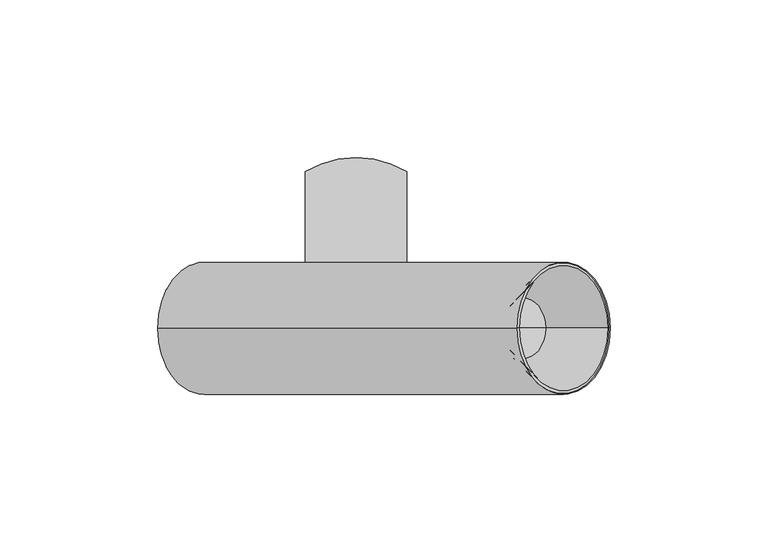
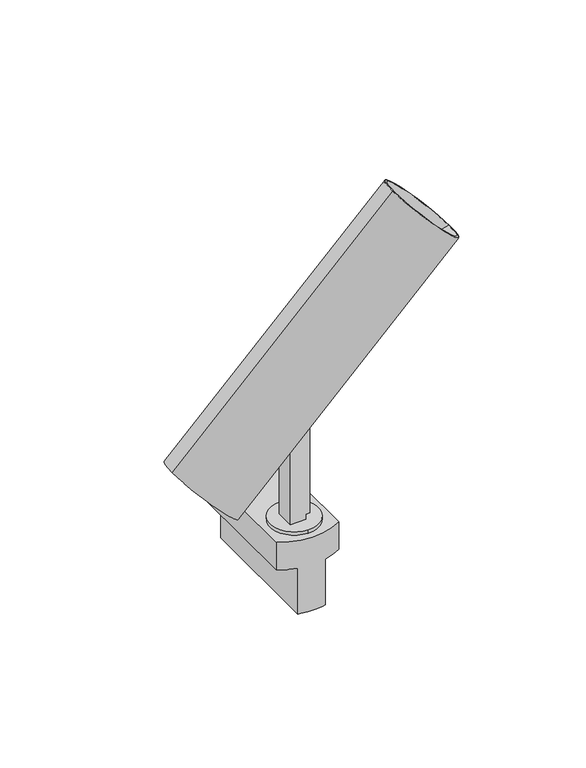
"""IFC4 building model written with IfcOpenShell, lengths in millimetres: light fixture geometry, PIPES T XS : 630lm 7,8W 840 38°."""

from ifc_helpers import new_model, si_unit, point, frame, frame_2d, origin, origin_2d, place, context, project, spatial, polyline, circle_curve, trimmed, segment, composite_curve, outline, extrude, source, transform, mapped, element, save
from ifc_brep_helpers import plane_surface, cylinder_surface, revolved_surface, advanced_brep


def light_fixture_8f9b67cb(model_context):
    return source(origin(), model_context, "Body", "SolidModel", [
        extrude(outline(composite_curve([segment(polyline([(16.8, -5.0), (16.8, 3.0), (19.8, 3.0), (19.8, 5.0), (77.8486083, 5.0), (77.8486083, -3.0)]), True, "CONTINUOUS"), segment(trimmed(circle_curve(frame_2d((72.2216603, -3.0)), 5.626948), [point((77.8486083, -3.0))], [point((72.2216603, -8.626948))], False, "CARTESIAN"), True, "CONTINUOUS"), segment(polyline([(72.2216603, -8.626948), (66.4039036, -8.626948)]), True, "CONTINUOUS"), segment(trimmed(circle_curve(frame_2d((74.2485419, -2.7611322)), 9.7952104), [point((66.4039036, -8.626948))], [point((64.7126299, -5.0))], False, "CARTESIAN"), True, "CONTINUOUS"), segment(polyline([(64.7126299, -5.0), (16.8, -5.0)]), True, "CONTINUOUS")], self_intersect=False)), frame((0.0, -5.0, 0.0), z_axis=(0.0, 1.0, 0.0), x_axis=(0.0, 0.0, 1.0)), (0.0, 0.0, 1.0), 10.0),
        extrude(outline(composite_curve([segment(trimmed(circle_curve(origin_2d(), 12.5), [point((0.0, 12.5))], [point((0.0, -12.5))], False, "CARTESIAN"), True, "CONTINUOUS"), segment(trimmed(circle_curve(origin_2d(), 12.5), [point((0.0, -12.5))], [point((0.0, 12.5))], False, "CARTESIAN"), True, "CONTINUOUS")], self_intersect=False)), frame((0.0, 0.0, 15.0), z_axis=(0.0, 0.0, 1.0), x_axis=(1.0, 0.0, 0.0)), (0.0, 0.0, 1.0), 1.8),
        advanced_brep(
        [(-7.1153658, -15.2862846, -25.0), (-7.1153658, 53.3498174, -25.0), (7.1153658, 53.3498174, -25.0), (7.1153658, -15.2862846, -25.0), (-16.1153658, 49.7317664, 15.0), (-16.1153658, -11.6682336, 15.0), (16.1153658, -11.6682336, 15.0), (16.1153658, 49.7317664, 15.0), (-16.1153658, 49.7317664, 0.0), (-16.1153658, -11.6682336, 0.0), (-7.1153658, -15.2862846, 0.0), (7.1153658, -15.2862846, 0.0), (16.1153658, -11.6682336, 0.0), (16.1153658, 49.7317664, 0.0), (7.1153658, 53.3498174, 0.0), (-7.1153658, 53.3498174, 0.0)],
        [
            (0, 1),
            (1, 2, circle_curve(frame((0.0, 22.6472542, -25.0), z_axis=(0.0, 0.0, -1.0), x_axis=(1.0, 0.0, 0.0)), 31.5162786)),
            (2, 3),
            (3, 0, circle_curve(frame((0.0, 15.4162786, -25.0), z_axis=(0.0, 0.0, -1.0), x_axis=(1.0, 0.0, 0.0)), 31.5162786)),
            (4, 5),
            (5, 6, circle_curve(frame((0.0, 15.4162786, 15.0), z_axis=(0.0, 0.0, 1.0), x_axis=(1.0, 0.0, 0.0)), 31.5162786)),
            (6, 7),
            (7, 4, circle_curve(frame((0.0, 22.6472542, 15.0), z_axis=(0.0, 0.0, 1.0), x_axis=(1.0, 0.0, 0.0)), 31.5162786)),
            (4, 8),
            (8, 9),
            (9, 5),
            (9, 10, circle_curve(frame((0.0, 15.4162786, 0.0), z_axis=(0.0, 0.0, 1.0), x_axis=(1.0, 0.0, 0.0)), 31.5162786)),
            (10, 0),
            (3, 11),
            (11, 12, circle_curve(frame((0.0, 15.4162786, 0.0), z_axis=(0.0, 0.0, 1.0), x_axis=(1.0, 0.0, 0.0)), 31.5162786)),
            (12, 6),
            (12, 13),
            (13, 7),
            (13, 14, circle_curve(frame((0.0, 22.6472542, 0.0), z_axis=(0.0, 0.0, 1.0), x_axis=(1.0, 0.0, 0.0)), 31.5162786)),
            (14, 2),
            (1, 15),
            (15, 8, circle_curve(frame((0.0, 22.6472542, 0.0), z_axis=(0.0, 0.0, 1.0), x_axis=(1.0, 0.0, 0.0)), 31.5162786)),
            (15, 10),
            (11, 14),
        ],
        [
            plane_surface(frame((-16.1153658, -11.6883244, -25.0), z_axis=(0.0, 0.0, -1.0), x_axis=(0.0, 1.0, 0.0))),
            plane_surface(frame((-16.1153658, -11.6883244, 15.0), z_axis=(0.0, 0.0, 1.0), x_axis=(0.0, -1.0, 0.0))),
            plane_surface(frame((-16.1153658, 49.7317664, 15.0), z_axis=(-1.0, 0.0, 0.0), x_axis=(0.0, 0.0, -1.0))),
            cylinder_surface(frame((0.0, 15.4162786, -25.0), z_axis=(0.0, 0.0, 1.0), x_axis=(1.0, 0.0, 0.0)), 31.5162786),
            plane_surface(frame((16.1153658, -11.6682336, 15.0), z_axis=(1.0, 0.0, 0.0), x_axis=(0.0, 0.0, -1.0))),
            cylinder_surface(frame((0.0, 22.6472542, -25.0), z_axis=(0.0, 0.0, 1.0), x_axis=(1.0, 0.0, 0.0)), 31.5162786),
            plane_surface(frame((-7.1153658, 58.6979838, 0.0), z_axis=(0.0, 0.0, -1.0), x_axis=(-1.0, 0.0, 0.0))),
            plane_surface(frame((-7.1153658, -21.3020162, 0.0), z_axis=(-1.0, 0.0, 0.0), x_axis=(0.0, 0.0, -1.0))),
            plane_surface(frame((7.1153658, -11.6883244, 0.0), z_axis=(0.0, 0.0, -1.0), x_axis=(0.0, -1.0, 0.0))),
            plane_surface(frame((7.1153658, 58.6979838, 0.0), z_axis=(1.0, 0.0, 0.0), x_axis=(0.0, 0.0, -1.0))),
        ],
        [
            (0, [[1, 2, 3, 4]]),
            (1, [[5, 6, 7, 8]]),
            (2, [[-5, 9, 10, 11]]),
            (3, [[-6, -11, 12, 13, -4, 14, 15, 16]]),
            (4, [[-7, -16, 17, 18]]),
            (5, [[-8, -18, 19, 20, -2, 21, 22, -9]]),
            (6, [[23, -12, -10, -22]]),
            (7, [[-23, -21, -1, -13]]),
            (8, [[24, -19, -17, -15]]),
            (9, [[-24, -14, -3, -20]]),
        ],
    ),
        advanced_brep(
        [(0.0, 5.0, 80.0710678), (-36.0624458, 5.0, 44.008622), (-30.879139, 5.0, 38.8253152), (-35.1217797, 5.0, 34.5826745), (-33.661056, 5.0, 33.1219508), (6.6440305, 5.0, 73.4270373), (0.0, -5.0, 80.0710678), (6.6440305, -5.0, 73.4270373), (-33.661056, -5.0, 33.1219508), (-35.1217797, -5.0, 34.5826745), (-30.879139, -5.0, 38.8253152), (-36.0624458, -5.0, 44.008622), (-36.0624458, 0.0, 44.008622), (7.0710678, 0.0, 73.0), (80.6101731, 0.0, 146.5391052), (50.9116882, 0.0, 176.2375901), (-62.9325035, 0.0, 62.3933983), (-61.51829, 0.0, 60.9791847), (-57.2756493, 0.0, 65.2218254), (-43.8406204, 0.0, 51.7867966), (45.6083874, 0.0, 155.37794), (59.750523, 0.0, 141.2358044), (52.6794552, 0.0, 148.3068722)],
        [
            (0, 1),
            (1, 2),
            (2, 3),
            (3, 4),
            (4, 5),
            (5, 0),
            (6, 7),
            (7, 8),
            (8, 9),
            (9, 10),
            (10, 11),
            (11, 6),
            (0, 6),
            (11, 12),
            (12, 1),
            (5, 13, circle_curve(frame((-7.7781746, 0.0, 87.8492424), z_axis=(-0.7071067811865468, 0.0, -0.7071067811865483), x_axis=(0.7071067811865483, 0.0, -0.7071067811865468)), 21.0)),
            (13, 7, circle_curve(frame((-7.7781746, 0.0, 87.8492424), z_axis=(-0.7071067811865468, 0.0, -0.7071067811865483), x_axis=(0.7071067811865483, 0.0, -0.7071067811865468)), 21.0)),
            (14, 15, circle_curve(frame((65.7609307, 0.0, 161.3883476), z_axis=(-0.7071067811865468, 0.0, -0.7071067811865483), x_axis=(0.7071067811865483, 0.0, -0.7071067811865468)), 21.0)),
            (15, 16),
            (16, 8, circle_curve(frame((-48.0832611, 0.0, 47.5441559), z_axis=(0.7071067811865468, 0.0, 0.7071067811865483), x_axis=(0.7071067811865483, 0.0, -0.7071067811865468)), 21.0)),
            (13, 14),
            (15, 14, circle_curve(frame((65.7609307, 0.0, 161.3883476), z_axis=(-0.7071067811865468, 0.0, -0.7071067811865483), x_axis=(0.7071067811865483, 0.0, -0.7071067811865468)), 21.0)),
            (4, 16, circle_curve(frame((-48.0832611, 0.0, 47.5441559), z_axis=(0.7071067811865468, 0.0, 0.7071067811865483), x_axis=(0.7071067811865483, 0.0, -0.7071067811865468)), 21.0)),
            (16, 17),
            (17, 9, circle_curve(frame((-48.0832611, 0.0, 47.5441559), z_axis=(0.7071067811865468, 0.0, 0.7071067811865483), x_axis=(0.7071067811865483, 0.0, -0.7071067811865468)), 19.0)),
            (3, 17, circle_curve(frame((-48.0832611, 0.0, 47.5441559), z_axis=(0.7071067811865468, 0.0, 0.7071067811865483), x_axis=(0.7071067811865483, 0.0, -0.7071067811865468)), 19.0)),
            (17, 18),
            (18, 10, circle_curve(frame((-43.8406204, 0.0, 51.7867966), z_axis=(0.7071067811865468, 0.0, 0.7071067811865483), x_axis=(0.7071067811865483, 0.0, -0.7071067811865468)), 19.0)),
            (2, 18, circle_curve(frame((-43.8406204, 0.0, 51.7867966), z_axis=(0.7071067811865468, 0.0, 0.7071067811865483), x_axis=(0.7071067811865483, 0.0, -0.7071067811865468)), 19.0)),
            (18, 19),
            (19, 12),
            (20, 21, circle_curve(frame((52.6794552, 0.0, 148.3068722), z_axis=(0.7071067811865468, 0.0, 0.7071067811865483), x_axis=(0.7071067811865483, 0.0, -0.7071067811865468)), 10.0)),
            (21, 22),
            (22, 20),
            (21, 20, circle_curve(frame((52.6794552, 0.0, 148.3068722), z_axis=(0.7071067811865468, 0.0, 0.7071067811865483), x_axis=(0.7071067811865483, 0.0, -0.7071067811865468)), 10.0)),
            (14, 21),
            (20, 15),
        ],
        [
            plane_surface(frame((0.0, 5.0, 80.0710678), z_axis=(0.0, -1.0000000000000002, 0.0), x_axis=(0.707106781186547, 0.0, 0.7071067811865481))),
            plane_surface(frame((0.0, -5.0, 80.0710678), z_axis=(0.0, 1.0000000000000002, 0.0), x_axis=(-0.707106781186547, 0.0, -0.7071067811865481))),
            plane_surface(frame((0.0, -5.0, 80.0710678), z_axis=(0.7071067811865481, 0.0, -0.707106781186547), x_axis=(0.0, 1.0, 0.0))),
            plane_surface(frame((14.1421356, -5.0, 65.9289322), z_axis=(-0.7071067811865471, 0.0, -0.7071067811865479), x_axis=(0.0, 1.0, 0.0))),
            cylinder_surface(frame((-54.059997, 0.0, 41.56742), z_axis=(-0.7071067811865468, 0.0, -0.7071067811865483), x_axis=(0.7071067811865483, 0.0, -0.7071067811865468)), 21.0),
            plane_surface(frame((-48.0832611, 0.0, 47.5441559), z_axis=(-0.7071067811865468, 0.0, -0.7071067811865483), x_axis=(0.7071067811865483, 0.0, -0.7071067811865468))),
            revolved_surface(polyline([(-34.64823230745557, 0.0, 34.10912700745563), (-30.40559155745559, 0.0, 38.351767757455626)]), (-54.059997, 0.0, 41.56742), (-0.7071067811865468, 0.0, -0.7071067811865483)),
            plane_surface(frame((-43.8406204, 0.0, 51.7867966), z_axis=(-0.7071067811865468, 0.0, -0.7071067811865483), x_axis=(0.7071067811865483, 0.0, -0.7071067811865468))),
            plane_surface(frame((52.6794552, 0.0, 148.3068722), z_axis=(0.7071067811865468, 0.0, 0.7071067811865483), x_axis=(0.7071067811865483, 0.0, -0.7071067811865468))),
            revolved_surface(polyline([(59.750523, 0.0, 141.2358044), (80.6101731, 0.0, 146.5391052)]), (-54.059997, 0.0, 41.56742), (-0.7071067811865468, 0.0, -0.7071067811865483)),
        ],
        [
            (0, [[1, 2, 3, 4, 5, 6]]),
            (1, [[7, 8, 9, 10, 11, 12]]),
            (2, [[13, -12, 14, 15, -1]]),
            (3, [[-13, -6, 16, 17, -7]]),
            (4, [[18, 19, 20, -8, -17, 21]]),
            (4, [[-19, 22, -21, -16, -5, 23]]),
            (5, [[24, 25, -9, -20]]),
            (5, [[-24, -23, -4, 26]]),
            (6, [[27, 28, -10, -25]]),
            (6, [[-27, -26, -3, 29]]),
            (7, [[30, 31, -14, -11, -28]]),
            (7, [[-30, -29, -2, -15, -31]]),
            (8, [[32, 33, 34]]),
            (8, [[-33, 35, -34]]),
            (9, [[-18, 36, -32, 37]]),
            (9, [[-22, -37, -35, -36]]),
        ],
    ),
        advanced_brep(
        [(-38.890873, 5.0, 41.1801948), (-40.3050865, 5.0, 39.7659813), (-36.5988387, 5.0, 36.0597335), (-35.1846252, 5.0, 37.473947), (-40.3050865, -5.0, 39.7659813), (-38.890873, -5.0, 41.1801948), (-35.1846252, -5.0, 37.473947), (-36.5988387, -5.0, 36.0597335), (-38.890873, 0.0, 41.1801948), (-40.3050865, 0.0, 39.7659813), (-46.6690476, 0.0, 48.9583694), (-58.685368, 0.0, 60.9746899), (-60.0995816, 0.0, 59.5604764), (-48.0832611, 0.0, 47.5441559)],
        [
            (0, 1),
            (1, 2),
            (2, 3),
            (3, 0),
            (4, 5),
            (5, 6),
            (6, 7),
            (7, 4),
            (0, 8),
            (8, 5),
            (4, 9),
            (9, 1),
            (10, 11),
            (11, 6, circle_curve(frame((-46.6690476, 0.0, 48.9583694), z_axis=(0.7071067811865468, 0.0, 0.7071067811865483), x_axis=(0.7071067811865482, 0.0, -0.7071067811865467)), 16.9936434)),
            (8, 10),
            (3, 11, circle_curve(frame((-46.6690476, 0.0, 48.9583694), z_axis=(0.7071067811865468, 0.0, 0.7071067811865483), x_axis=(0.7071067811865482, 0.0, -0.7071067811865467)), 16.9936434)),
            (11, 12),
            (12, 7, circle_curve(frame((-48.0832611, 0.0, 47.5441559), z_axis=(0.7071067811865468, 0.0, 0.7071067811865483), x_axis=(0.7071067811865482, 0.0, -0.7071067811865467)), 16.9936434)),
            (2, 12, circle_curve(frame((-48.0832611, 0.0, 47.5441559), z_axis=(0.7071067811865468, 0.0, 0.7071067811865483), x_axis=(0.7071067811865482, 0.0, -0.7071067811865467)), 16.9936434)),
            (12, 13),
            (13, 9),
        ],
        [
            plane_surface(frame((0.0, 5.0, 80.0710678), z_axis=(0.0, -1.0000000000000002, 0.0), x_axis=(0.707106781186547, 0.0, 0.7071067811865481))),
            plane_surface(frame((0.0, -5.0, 80.0710678), z_axis=(0.0, 1.0000000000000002, 0.0), x_axis=(-0.707106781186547, 0.0, -0.7071067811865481))),
            plane_surface(frame((0.0, -5.0, 80.0710678), z_axis=(0.7071067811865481, 0.0, -0.707106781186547), x_axis=(0.0, 1.0, 0.0))),
            plane_surface(frame((-46.6690476, 0.0, 48.9583694), z_axis=(0.7071067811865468, 0.0, 0.7071067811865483), x_axis=(0.7071067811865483, 0.0, -0.7071067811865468))),
            cylinder_surface(frame((45.2885057, 0.0, 140.9159227), z_axis=(-0.7071067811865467, 0.0, -0.7071067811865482), x_axis=(0.7071067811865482, 0.0, -0.7071067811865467)), 16.9936434),
            plane_surface(frame((-48.0832611, 0.0, 47.5441559), z_axis=(-0.7071067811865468, 0.0, -0.7071067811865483), x_axis=(0.7071067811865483, 0.0, -0.7071067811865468))),
        ],
        [
            (0, [[1, 2, 3, 4]]),
            (1, [[5, 6, 7, 8]]),
            (2, [[-1, 9, 10, -5, 11, 12]]),
            (3, [[13, 14, -6, -10, 15]]),
            (3, [[-13, -15, -9, -4, 16]]),
            (4, [[17, 18, -7, -14]]),
            (4, [[-17, -16, -3, 19]]),
            (5, [[20, 21, -11, -8, -18]]),
            (5, [[-20, -19, -2, -12, -21]]),
        ],
    ),
        advanced_brep(
        [(46.7177134, 0.0, 155.6828275), (60.0554105, 0.0, 142.3451304), (53.386562, 0.0, 149.013979), (51.7343494, 0.0, 175.4149289), (79.7875119, 0.0, 147.3617664), (50.9116882, 0.0, 176.2375901), (80.6101731, 0.0, 146.5391052), (45.6083874, 0.0, 155.37794), (59.750523, 0.0, 141.2358044), (52.6794552, 0.0, 148.3068722)],
        [
            (0, 1, circle_curve(frame((53.386562, 0.0, 149.013979), z_axis=(0.707106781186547, 0.0, 0.7071067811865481), x_axis=(0.7071067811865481, 0.0, -0.707106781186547)), 9.431176)),
            (1, 2),
            (2, 0),
            (1, 0, circle_curve(frame((53.386562, 0.0, 149.013979), z_axis=(0.707106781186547, 0.0, 0.7071067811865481), x_axis=(0.7071067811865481, 0.0, -0.707106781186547)), 9.431176)),
            (3, 4, circle_curve(frame((65.7609307, 0.0, 161.3883476), z_axis=(0.707106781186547, 0.0, 0.7071067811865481), x_axis=(0.7071067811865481, 0.0, -0.707106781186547)), 19.8365814)),
            (4, 1),
            (0, 3),
            (4, 3, circle_curve(frame((65.7609307, 0.0, 161.3883476), z_axis=(0.707106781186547, 0.0, 0.7071067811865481), x_axis=(0.7071067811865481, 0.0, -0.707106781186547)), 19.8365814)),
            (5, 6, circle_curve(frame((65.7609307, 0.0, 161.3883476), z_axis=(0.707106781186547, 0.0, 0.7071067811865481), x_axis=(0.7071067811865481, 0.0, -0.707106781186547)), 21.0)),
            (6, 4),
            (3, 5),
            (6, 5, circle_curve(frame((65.7609307, 0.0, 161.3883476), z_axis=(0.707106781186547, 0.0, 0.7071067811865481), x_axis=(0.7071067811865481, 0.0, -0.707106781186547)), 21.0)),
            (7, 8, circle_curve(frame((52.6794552, 0.0, 148.3068722), z_axis=(0.707106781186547, 0.0, 0.7071067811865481), x_axis=(0.7071067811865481, 0.0, -0.707106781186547)), 10.0)),
            (8, 6),
            (5, 7),
            (8, 7, circle_curve(frame((52.6794552, 0.0, 148.3068722), z_axis=(0.707106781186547, 0.0, 0.7071067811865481), x_axis=(0.7071067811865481, 0.0, -0.707106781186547)), 10.0)),
            (9, 8),
            (7, 9),
        ],
        [
            plane_surface(frame((53.386562, 0.0, 149.013979), z_axis=(0.707106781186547, 0.0, 0.7071067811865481), x_axis=(0.7071067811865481, 0.0, -0.707106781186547))),
            revolved_surface(polyline([(60.0554105, 0.0, 142.3451304), (79.7875119, 0.0, 147.3617664)]), (-68.2021326, 0.0, 27.4252844), (-0.707106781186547, 0.0, -0.7071067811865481)),
            plane_surface(frame((65.7609307, 0.0, 161.3883476), z_axis=(0.707106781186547, 0.0, 0.7071067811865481), x_axis=(0.7071067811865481, 0.0, -0.707106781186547))),
            revolved_surface(polyline([(80.6101731, 0.0, 146.5391052), (59.750523, 0.0, 141.2358044)]), (-68.2021326, 0.0, 27.4252844), (-0.707106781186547, 0.0, -0.7071067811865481)),
            plane_surface(frame((52.6794552, 0.0, 148.3068722), z_axis=(-0.707106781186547, 0.0, -0.7071067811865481), x_axis=(0.7071067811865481, 0.0, -0.707106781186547))),
        ],
        [
            (0, [[1, 2, 3]]),
            (0, [[4, -3, -2]]),
            (1, [[5, 6, -1, 7]]),
            (1, [[8, -7, -4, -6]]),
            (2, [[9, 10, -5, 11]]),
            (2, [[12, -11, -8, -10]]),
            (3, [[13, 14, -9, 15]]),
            (3, [[16, -15, -12, -14]]),
            (4, [[17, -13, 18]]),
            (4, [[-18, -16, -17]]),
        ],
    ),
    ])


if __name__ == "__main__":
    model = new_model("IFC4")
    model_context = context("Model", 3, world=origin())
    ifc_project = project(units=[si_unit("LENGTHUNIT", "METRE", prefix="MILLI")], contexts=[model_context])
    site = spatial("IfcSite", under=ifc_project)
    building = spatial("IfcBuilding", under=site)
    placement = place(None, origin())
    light_fixture_shape = light_fixture_8f9b67cb(model_context)
    element("IfcLightFixture", 1, ObjectType="PIPES T XS : 630lm 7,8W 840 38°", at=placement, inside=building, context=model_context, shape_type="MappedRepresentation", body=[
        mapped(light_fixture_shape, transform((0.0, 0.0, 0.0), x_axis=(1.0, 0.0, 0.0), y_axis=(0.0, 1.0, 0.0), z_axis=(0.0, 0.0, 1.0))),
    ])
    save(model, "model.ifc")
